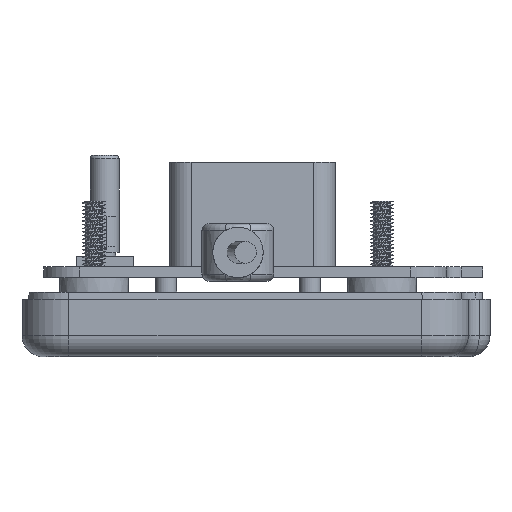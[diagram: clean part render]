
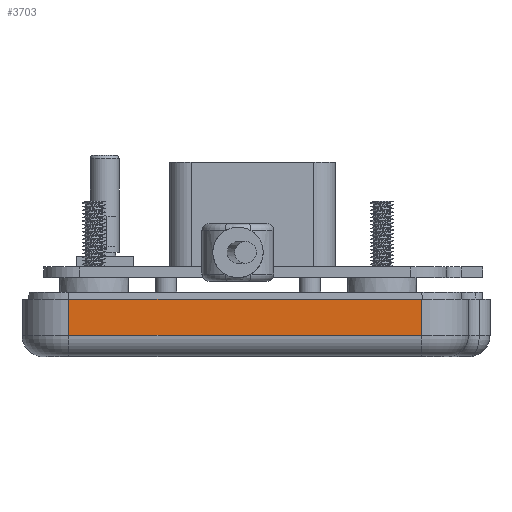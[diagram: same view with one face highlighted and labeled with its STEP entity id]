
A CAD part, front view. The second image highlights one B-rep face of the part: STEP entity #3703.
In plain terms, the highlighted planar face has unit normal (0, -1, 0).
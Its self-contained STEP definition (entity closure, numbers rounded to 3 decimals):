
#3703=ADVANCED_FACE('',(#5108),#4356,.T.);
#4356=PLANE('',#18122);
#5108=FACE_OUTER_BOUND('',#6126,.T.);
#6126=EDGE_LOOP('',(#10053,#10054,#10055,#10056));
#10053=ORIENTED_EDGE('',*,*,#13834,.T.);
#10054=ORIENTED_EDGE('',*,*,#13835,.T.);
#10055=ORIENTED_EDGE('',*,*,#13836,.T.);
#10056=ORIENTED_EDGE('',*,*,#13824,.T.);
#11805=VERTEX_POINT('',#60924);
#11818=VERTEX_POINT('',#60949);
#11826=VERTEX_POINT('',#60986);
#11827=VERTEX_POINT('',#60990);
#13824=EDGE_CURVE('',#11805,#11818,#15360,.T.);
#13834=EDGE_CURVE('',#11818,#11826,#15365,.T.);
#13835=EDGE_CURVE('',#11826,#11827,#15366,.T.);
#13836=EDGE_CURVE('',#11827,#11805,#15367,.T.);
#15360=LINE('',#60950,#16830);
#15365=LINE('',#60987,#16835);
#15366=LINE('',#60989,#16836);
#15367=LINE('',#60991,#16837);
#16830=VECTOR('',#22121,1.);
#16835=VECTOR('',#22134,1.);
#16836=VECTOR('',#22137,1.);
#16837=VECTOR('',#22138,1.);
#18122=AXIS2_PLACEMENT_3D('',#60992,#22139,#22140);
#22121=DIRECTION('',(-1.,0.,0.));
#22134=DIRECTION('',(0.,0.,-1.));
#22137=DIRECTION('',(1.,0.,0.));
#22138=DIRECTION('',(0.,0.,1.));
#22139=DIRECTION('',(0.,-1.,0.));
#22140=DIRECTION('',(0.,0.,1.));
#60924=CARTESIAN_POINT('',(25.5,-35.,-5.));
#60949=CARTESIAN_POINT('',(-23.5,-35.,-5.));
#60950=CARTESIAN_POINT('',(-35.,-35.,-5.));
#60986=CARTESIAN_POINT('',(-23.5,-35.,-10.));
#60987=CARTESIAN_POINT('',(-23.5,-35.,-5.));
#60989=CARTESIAN_POINT('',(23.5,-35.,-10.));
#60990=CARTESIAN_POINT('',(25.5,-35.,-10.));
#60991=CARTESIAN_POINT('',(25.5,-35.,-5.));
#60992=CARTESIAN_POINT('',(-35.,-35.,-5.));
